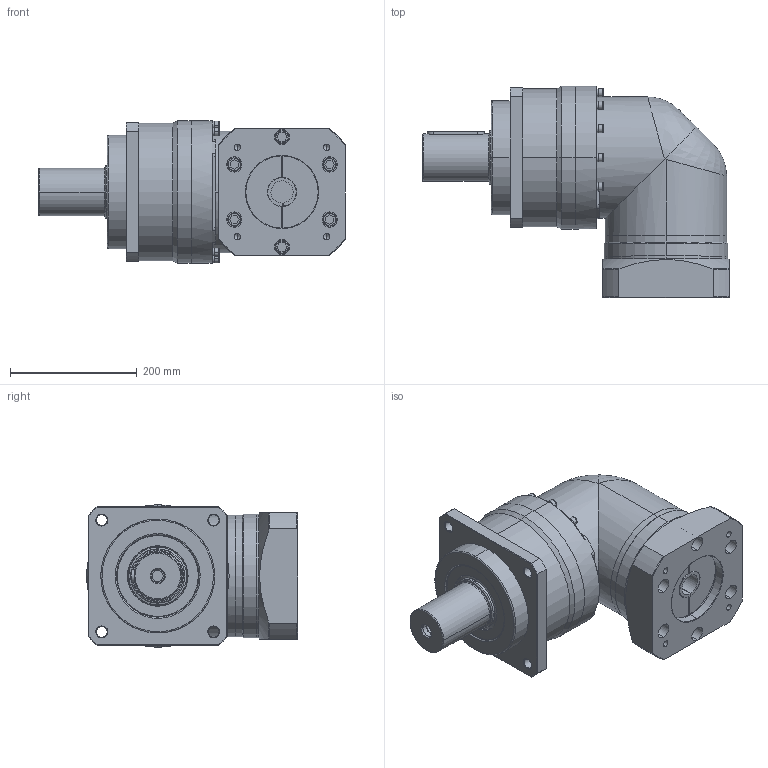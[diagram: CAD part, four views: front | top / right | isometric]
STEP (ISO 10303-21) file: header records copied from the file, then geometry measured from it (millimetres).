
FILE_DESCRIPTION (( 'STEP AP214' ), '1' );
FILE_NAME ('EVB220-L1-S2-P1 35-114.3-200-M12-85.STEP', '2023-08-31T02:56:33', ( '微软用户' ), ( '微软中国' ), 'SwSTEP 2.0', 'SolidWorks 2018', '' );
FILE_SCHEMA (( 'AUTOMOTIVE_DESIGN' ));
Length unit declared in the file: millimetre
Products named in the file (6): 输入轴调整套42-35; M14-30_1; EVB220-L1-S2-P1 35-114.3-200-M12-85; EVB220输入法兰-114.3x65.5xM12_1; EVB220-10-38-180X58.5XM12_1; EVB220-8-42(奻)_1
Assembly tree (10 placements, depth 2):
  EVB220-L1-S2-P1 35-114.3-200-M12-85
    EVB220-8-42(奻)_1
    EVB220输入法兰-114.3x65.5xM12_1
    M14-30_1  x6
    EVB220-10-38-180X58.5XM12_1
    输入轴调整套42-35
Bounding box: 484.5 x 333.75 x 225.5 mm (x, y, z)
Volume: 3284179.6 mm3; surface area: 1066264.6 mm2
Topology: 29 solids, 58 shells, 1295 faces, 3084 edges, 1923 vertices
Faces by surface type: plane 509, cylinder 481, cone 205, bspline 69, torus 31
Entity records: 64114 total; most frequent: CARTESIAN_POINT 22631, DIRECTION 5968, ORIENTED_EDGE 5550, EDGE_CURVE 2778, AXIS2_PLACEMENT_3D 2383, VERTEX_POINT 1793, EDGE_LOOP 1373, UNCERTAINTY_MEASURE_WITH_UNIT 1267
